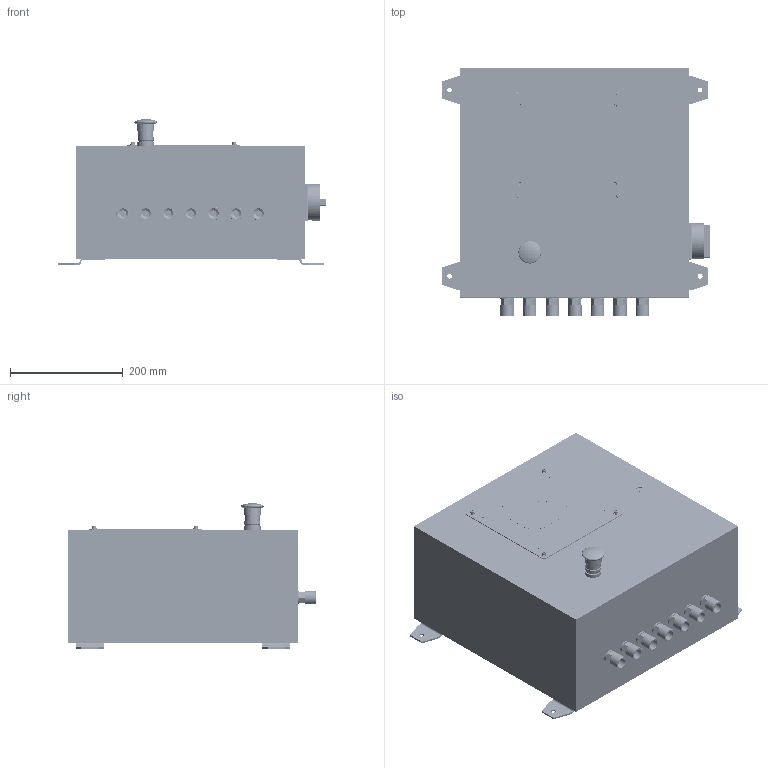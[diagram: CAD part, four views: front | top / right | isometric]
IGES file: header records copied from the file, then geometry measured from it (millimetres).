
Start section:  PTC IGES file: 1639210.igs
Global section: file name: 1639210.igs; native system: Pro/ENGINEER by Parametric Technology Corporation; preprocessor: 2007460; author: RVerdino; organization: Unknown; date: 20111012.120649; units: millimetre
Bounding box: 476.04 x 438 x 258.22 mm (x, y, z)
Volume: 3144637.6 mm3; surface area: 1748854.9 mm2
Topology: 2 solids, 40 shells, 9086 faces, 24583 edges, 15967 vertices
Faces by surface type: bspline 5941, revolution 3145
